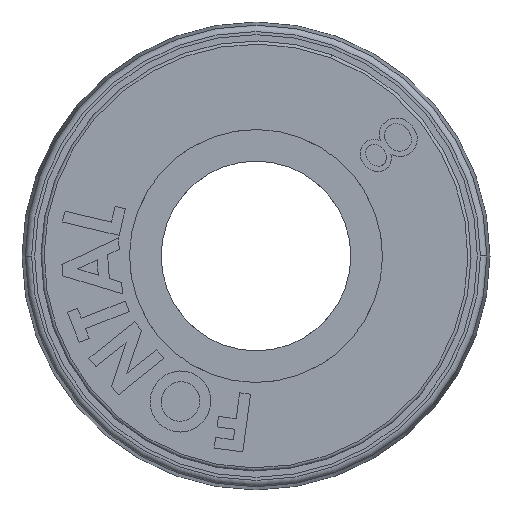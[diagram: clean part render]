
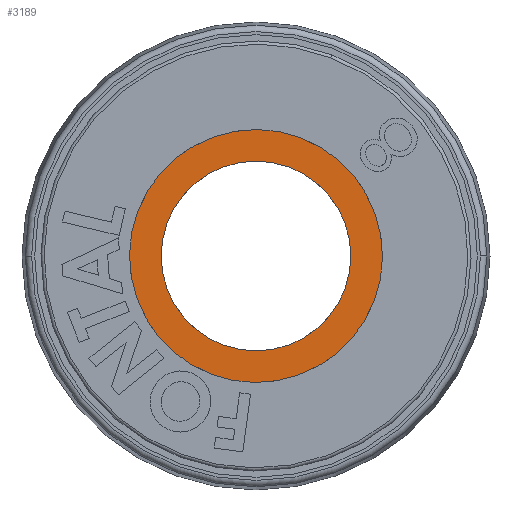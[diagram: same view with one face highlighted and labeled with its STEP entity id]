
A CAD part, left-side view. The second image highlights one B-rep face of the part: STEP entity #3189.
In plain terms, the highlighted planar face has unit normal (-1, 0, 0).
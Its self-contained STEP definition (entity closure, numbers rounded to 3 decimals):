
#30 = EDGE_CURVE ( 'NONE', #6346, #6657, #6655, .T. ) ;
#336 = CARTESIAN_POINT ( 'NONE',  ( -5.344, -3., 0. ) ) ;
#851 = AXIS2_PLACEMENT_3D ( 'NONE', #8426, #7603, #1038 ) ;
#1038 = DIRECTION ( 'NONE',  ( 0., -1., 0. ) ) ;
#1501 = AXIS2_PLACEMENT_3D ( 'NONE', #8223, #9719, #8350 ) ;
#1504 = EDGE_CURVE ( 'NONE', #9109, #7400, #9252, .T. ) ;
#1651 = ORIENTED_EDGE ( 'NONE', *, *, #30, .T. ) ;
#1952 = EDGE_CURVE ( 'NONE', #6657, #6346, #9963, .T. ) ;
#2147 = DIRECTION ( 'NONE',  ( -1., 0., 0. ) ) ;
#2238 = PLANE ( 'NONE',  #851 ) ;
#2881 = ORIENTED_EDGE ( 'NONE', *, *, #3277, .F. ) ;
#2912 = CARTESIAN_POINT ( 'NONE',  ( -5.344, 0., 0. ) ) ;
#3057 = ORIENTED_EDGE ( 'NONE', *, *, #1504, .F. ) ;
#3090 = AXIS2_PLACEMENT_3D ( 'NONE', #2912, #2147, #5128 ) ;
#3189 = ADVANCED_FACE ( 'NONE', ( #7080, #8992 ), #2238, .T. ) ;
#3277 = EDGE_CURVE ( 'NONE', #7400, #9109, #5990, .T. ) ;
#4199 = CARTESIAN_POINT ( 'NONE',  ( -5.344, 0., 0. ) ) ;
#4858 = EDGE_LOOP ( 'NONE', ( #1651, #5423 ) ) ;
#4869 = DIRECTION ( 'NONE',  ( 0., -1., 0. ) ) ;
#4922 = CARTESIAN_POINT ( 'NONE',  ( -5.344, 0., 0. ) ) ;
#4966 = AXIS2_PLACEMENT_3D ( 'NONE', #4922, #6607, #9583 ) ;
#4993 = CARTESIAN_POINT ( 'NONE',  ( -5.344, 4., 0. ) ) ;
#5128 = DIRECTION ( 'NONE',  ( 0., -1., 0. ) ) ;
#5423 = ORIENTED_EDGE ( 'NONE', *, *, #1952, .T. ) ;
#5913 = EDGE_LOOP ( 'NONE', ( #3057, #2881 ) ) ;
#5990 = CIRCLE ( 'NONE', #4966, 3. ) ;
#6346 = VERTEX_POINT ( 'NONE', #8837 ) ;
#6607 = DIRECTION ( 'NONE',  ( -1., 0., 0. ) ) ;
#6655 = CIRCLE ( 'NONE', #3090, 4. ) ;
#6657 = VERTEX_POINT ( 'NONE', #4993 ) ;
#7080 = FACE_BOUND ( 'NONE', #5913, .T. ) ;
#7400 = VERTEX_POINT ( 'NONE', #336 ) ;
#7603 = DIRECTION ( 'NONE',  ( -1., 0., 0. ) ) ;
#7940 = AXIS2_PLACEMENT_3D ( 'NONE', #4199, #8031, #4869 ) ;
#8031 = DIRECTION ( 'NONE',  ( -1., 0., 0. ) ) ;
#8223 = CARTESIAN_POINT ( 'NONE',  ( -5.344, 0., 0. ) ) ;
#8350 = DIRECTION ( 'NONE',  ( 0., -1., 0. ) ) ;
#8417 = CARTESIAN_POINT ( 'NONE',  ( -5.344, 3., 0. ) ) ;
#8426 = CARTESIAN_POINT ( 'NONE',  ( -5.344, 0., 0. ) ) ;
#8837 = CARTESIAN_POINT ( 'NONE',  ( -5.344, -4., 0. ) ) ;
#8992 = FACE_OUTER_BOUND ( 'NONE', #4858, .T. ) ;
#9109 = VERTEX_POINT ( 'NONE', #8417 ) ;
#9252 = CIRCLE ( 'NONE', #1501, 3. ) ;
#9583 = DIRECTION ( 'NONE',  ( 0., -1., 0. ) ) ;
#9719 = DIRECTION ( 'NONE',  ( -1., 0., 0. ) ) ;
#9963 = CIRCLE ( 'NONE', #7940, 4. ) ;
